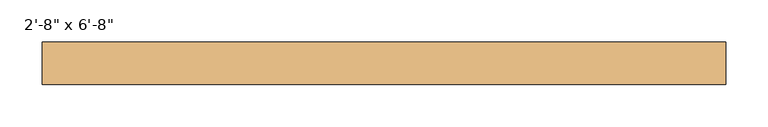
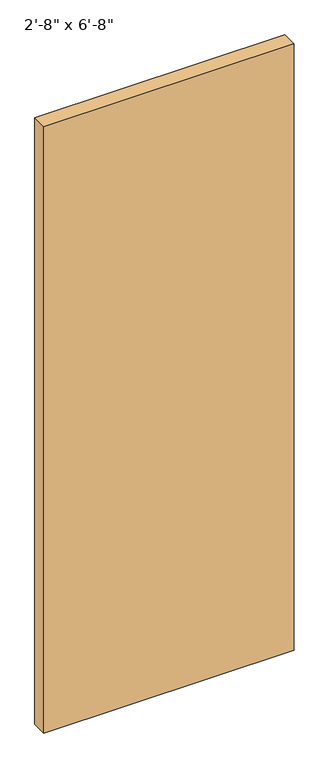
"""IFC4 building model written with IfcOpenShell, lengths in millimetres: door geometry."""

from ifc_helpers import new_model, si_unit, origin, origin_with_axes, place, context, project, spatial, polyline, outline, extrude, source, transform, mapped, element, save


def door_7d3dd137(model_context):
    return source(origin(), model_context, "Body", "SweptSolid", [
        extrude(outline(polyline([(406.5, 31.55), (-406.5, 31.55), (-406.5, 82.55), (406.5, 82.55), (406.5, 31.55)])), origin_with_axes(), (0.0, 0.0, 1.0), 2082.8),
    ])


if __name__ == "__main__":
    model = new_model("IFC4")
    model_context = context("Model", 3, world=origin())
    ifc_project = project(units=[si_unit("LENGTHUNIT", "METRE", prefix="MILLI")], contexts=[model_context])
    site = spatial("IfcSite", under=ifc_project)
    building = spatial("IfcBuilding", under=site)
    placement = place(None, origin())
    door_shape = door_7d3dd137(model_context)
    element("IfcDoor", 1, ObjectType="Planitar - Single Door_Flush Panel : 2'-8\" x 6'-8\"", at=placement, inside=building, context=model_context, shape_type="MappedRepresentation", body=[
        mapped(door_shape, transform((0.0, 0.0, 0.0), x_axis=(1.0, 0.0, 0.0), y_axis=(0.0, 1.0, 0.0), z_axis=(0.0, 0.0, 1.0))),
    ])
    save(model, "model.ifc")
